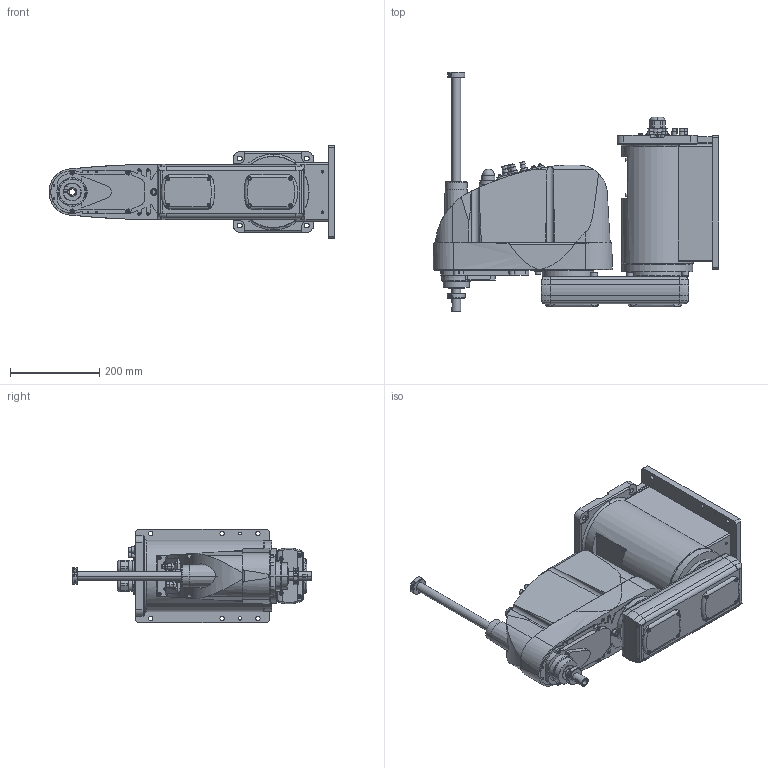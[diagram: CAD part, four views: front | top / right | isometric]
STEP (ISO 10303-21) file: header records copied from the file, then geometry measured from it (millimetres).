
FILE_DESCRIPTION( ( '' ), '1' );
FILE_NAME( '//expscmdclustefs.cadenas.external/client_exchange/iodir/jobs/output/wkb51533292_no0/STEP/G6_453SW_2_14b.stp', '2012-11-23T08:43:43', ( '' ), ( '' ), ' ', ' ', ' ' );
FILE_SCHEMA( ( 'automotive_design' ) );
Length unit declared in the file: millimetre
Products named in the file (4): 1; 2; 3; 4
Bounding box: 640 x 535 x 210 mm (x, y, z)
Volume: 20407793.1 mm3; surface area: 922157.7 mm2
Topology: 4 solids, 4 shells, 1654 faces, 4054 edges, 2602 vertices
Faces by surface type: plane 852, cylinder 566, cone 204, torus 31, sphere 1
Entity records: 98123 total; most frequent: CARTESIAN_POINT 11807, DIRECTION 8522, STYLED_ITEM 8288, PRESENTATION_STYLE_ASSIGNMENT 8288, COLOUR_RGB 8288, ORIENTED_EDGE 8056, EDGE_CURVE 4028, CURVE_STYLE 4028
